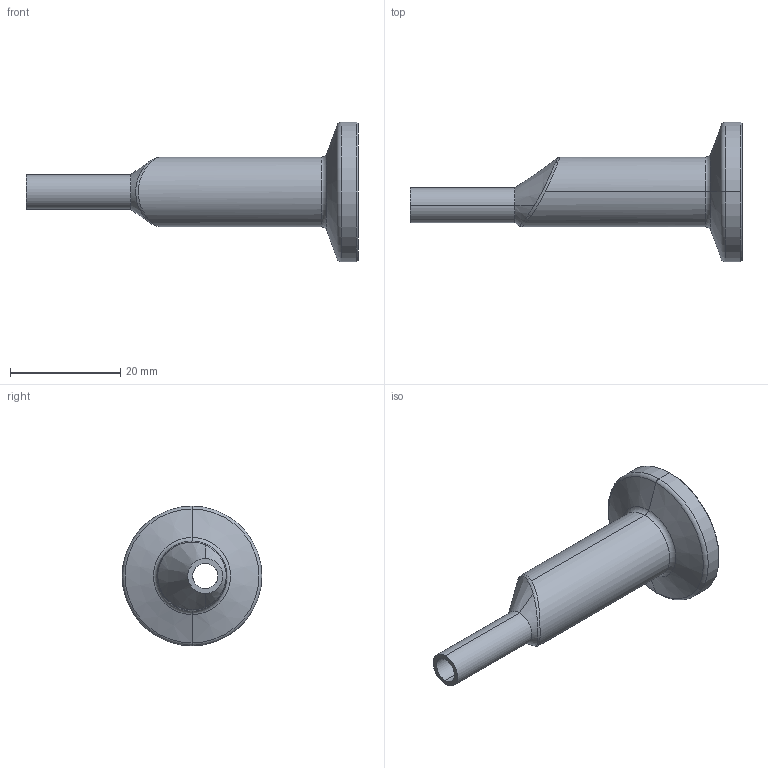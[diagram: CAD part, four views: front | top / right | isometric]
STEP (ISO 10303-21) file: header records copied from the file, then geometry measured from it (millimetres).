
FILE_DESCRIPTION (( 'STEP AP214' ), '1' );
FILE_NAME ('TE32SCW6L.5x.25-...STEP', '2016-06-01T08:44:27', ( 'eran' ), ( '' ), 'SwSTEP 2.0', 'SolidWorks 2016', '' );
FILE_SCHEMA (( 'AUTOMOTIVE_DESIGN' ));
Length unit declared in the file: millimetre
Products named in the file (1): TE32SCW6L.5x.25-..
Bounding box: 60.33 x 25.4 x 25.4 mm (x, y, z)
Volume: 5130 mm3; surface area: 4129.4 mm2
Topology: 1 solids, 1 shells, 45 faces, 99 edges, 57 vertices
Faces by surface type: cone 16, cylinder 15, torus 9, plane 3, bspline 2
Entity records: 1776 total; most frequent: CARTESIAN_POINT 763, DIRECTION 216, ORIENTED_EDGE 198, EDGE_CURVE 99, AXIS2_PLACEMENT_3D 94, VERTEX_POINT 57, CIRCLE 50, EDGE_LOOP 48
